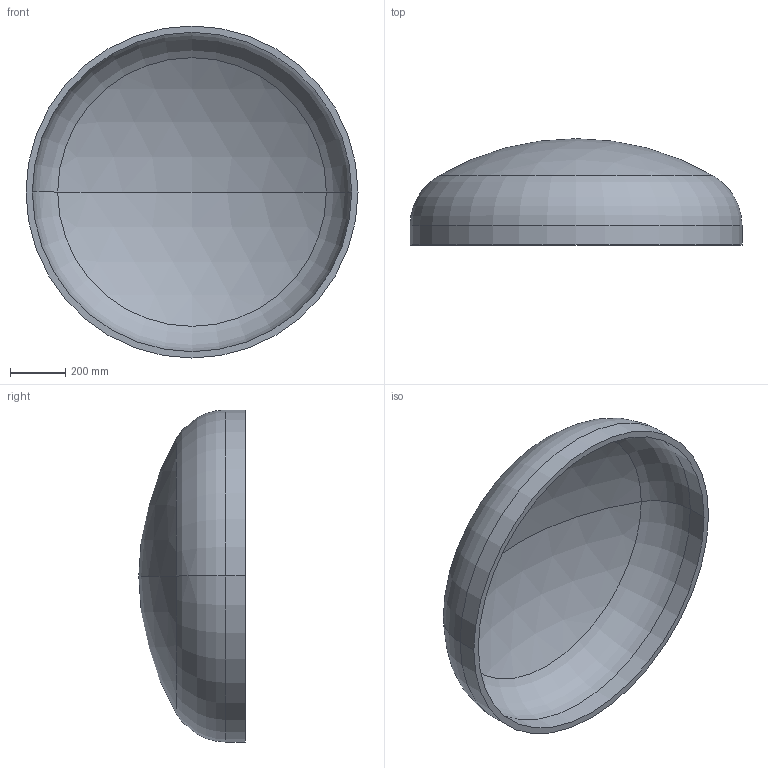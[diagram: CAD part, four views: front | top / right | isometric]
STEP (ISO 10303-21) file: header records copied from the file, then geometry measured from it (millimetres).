
FILE_DESCRIPTION (( 'STEP AP203' ), '1' );
FILE_NAME ('DIN 28013 Korbbogenform_-_Boden DIN 28013 - 1200 x 70 - I - s=23.step', '2016-07-01T09:23:54', ( '' ), ( '' ), 'SwSTEP 2.0', 'SolidWorks 2013', '' );
FILE_SCHEMA (( 'CONFIG_CONTROL_DESIGN' ));
Length unit declared in the file: millimetre
Products named in the file (1): DIN 28013 Korbbogenform_-_Boden DIN 28013 - 1200 x 70 - I - s=23
Bounding box: 1200 x 384.45 x 1200 mm (x, y, z)
Volume: 41089344.8 mm3; surface area: 3659139.3 mm2
Topology: 1 solids, 1 shells, 13 faces, 24 edges, 14 vertices
Faces by surface type: torus 4, cylinder 4, sphere 4, plane 1
Entity records: 407 total; most frequent: DIRECTION 72, CARTESIAN_POINT 52, ORIENTED_EDGE 48, AXIS2_PLACEMENT_3D 34, EDGE_CURVE 24, CIRCLE 20, VERTEX_POINT 14, EDGE_LOOP 14
